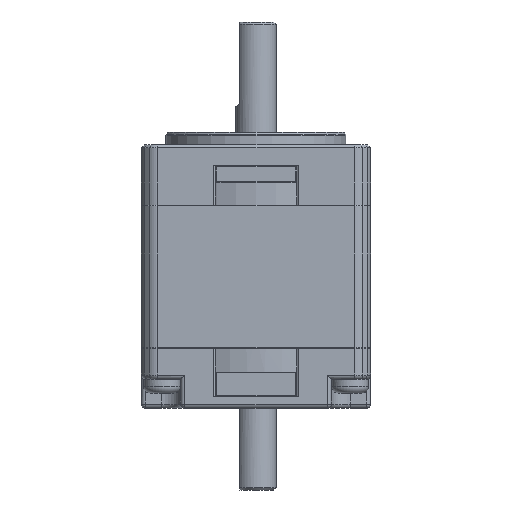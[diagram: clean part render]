
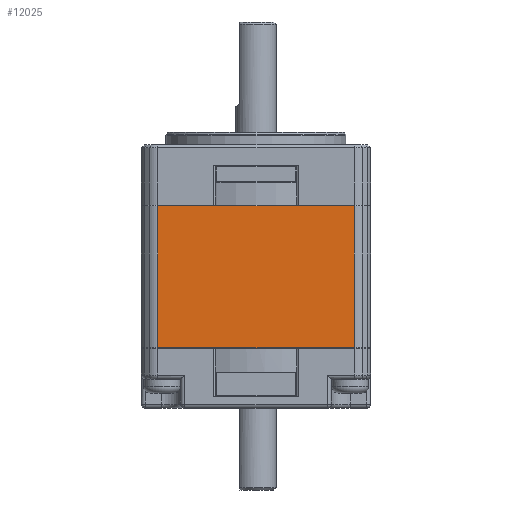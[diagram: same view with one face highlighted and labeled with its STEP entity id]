
A CAD part, front view. The second image highlights one B-rep face of the part: STEP entity #12025.
In plain terms, the highlighted planar face has unit normal (0, -1, 0).
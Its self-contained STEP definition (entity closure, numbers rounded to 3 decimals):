
#97 = CARTESIAN_POINT ( 'NONE',  ( -12.032, -14., -0.05 ) ) ;
#212 = VECTOR ( 'NONE', #11355, 1000. ) ;
#348 = CARTESIAN_POINT ( 'NONE',  ( 12.032, -14., -17.5 ) ) ;
#844 = CARTESIAN_POINT ( 'NONE',  ( -12.032, -14., -17.5 ) ) ;
#1109 = VERTEX_POINT ( 'NONE', #97 ) ;
#1316 = FACE_OUTER_BOUND ( 'NONE', #13982, .T. ) ;
#2686 = LINE ( 'NONE', #10399, #11034 ) ;
#3891 = LINE ( 'NONE', #844, #20029 ) ;
#4130 = VECTOR ( 'NONE', #19967, 1000. ) ;
#7182 = AXIS2_PLACEMENT_3D ( 'NONE', #15093, #18211, #8873 ) ;
#7272 = PLANE ( 'NONE',  #7182 ) ;
#7637 = LINE ( 'NONE', #348, #212 ) ;
#8299 = LINE ( 'NONE', #16851, #4130 ) ;
#8624 = EDGE_CURVE ( 'NONE', #9357, #15634, #8299, .T. ) ;
#8818 = DIRECTION ( 'NONE',  ( -1., 0., 0. ) ) ;
#8873 = DIRECTION ( 'NONE',  ( 0., 0., -1. ) ) ;
#9357 = VERTEX_POINT ( 'NONE', #12515 ) ;
#9504 = ORIENTED_EDGE ( 'NONE', *, *, #19290, .T. ) ;
#10399 = CARTESIAN_POINT ( 'NONE',  ( -12.032, -14., -0.05 ) ) ;
#10603 = ORIENTED_EDGE ( 'NONE', *, *, #8624, .T. ) ;
#11034 = VECTOR ( 'NONE', #8818, 1000. ) ;
#11355 = DIRECTION ( 'NONE',  ( 0., 0., 1. ) ) ;
#12025 = ADVANCED_FACE ( 'NONE', ( #1316 ), #7272, .T. ) ;
#12515 = CARTESIAN_POINT ( 'NONE',  ( -12.032, -14., -17.4 ) ) ;
#13684 = CARTESIAN_POINT ( 'NONE',  ( 12.032, -14., -17.4 ) ) ;
#13982 = EDGE_LOOP ( 'NONE', ( #16528, #10603, #18740, #9504 ) ) ;
#15029 = DIRECTION ( 'NONE',  ( 0., 0., 1. ) ) ;
#15093 = CARTESIAN_POINT ( 'NONE',  ( -12.032, -14., -17.5 ) ) ;
#15634 = VERTEX_POINT ( 'NONE', #13684 ) ;
#16528 = ORIENTED_EDGE ( 'NONE', *, *, #16583, .F. ) ;
#16583 = EDGE_CURVE ( 'NONE', #9357, #1109, #3891, .T. ) ;
#16660 = VERTEX_POINT ( 'NONE', #18204 ) ;
#16851 = CARTESIAN_POINT ( 'NONE',  ( -12.032, -14., -17.4 ) ) ;
#18204 = CARTESIAN_POINT ( 'NONE',  ( 12.032, -14., -0.05 ) ) ;
#18211 = DIRECTION ( 'NONE',  ( 0., -1., 0. ) ) ;
#18740 = ORIENTED_EDGE ( 'NONE', *, *, #19682, .T. ) ;
#19290 = EDGE_CURVE ( 'NONE', #16660, #1109, #2686, .T. ) ;
#19682 = EDGE_CURVE ( 'NONE', #15634, #16660, #7637, .T. ) ;
#19967 = DIRECTION ( 'NONE',  ( 1., 0., 0. ) ) ;
#20029 = VECTOR ( 'NONE', #15029, 1000. ) ;
